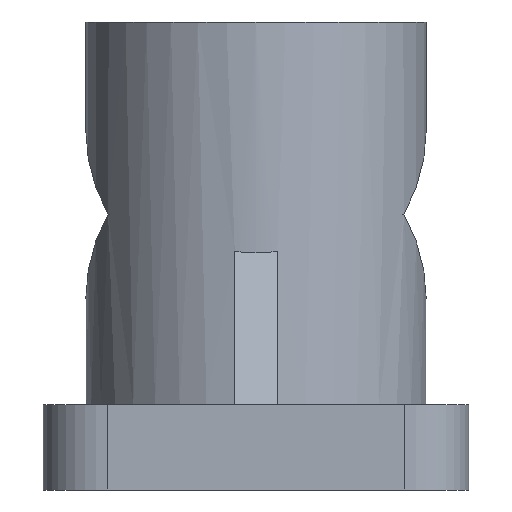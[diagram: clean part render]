
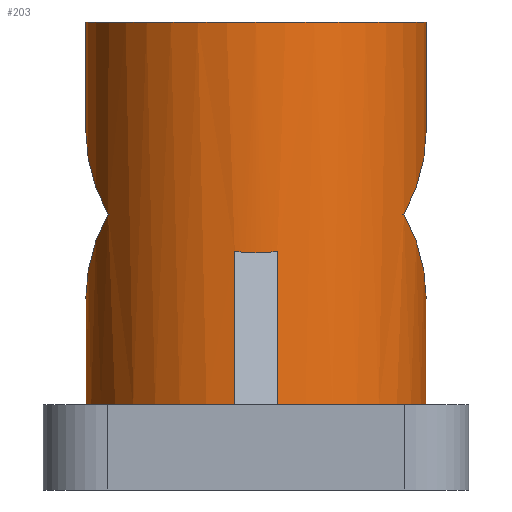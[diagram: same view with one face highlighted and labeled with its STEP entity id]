
A CAD part, left-side view. The second image highlights one B-rep face of the part: STEP entity #203.
In plain terms, the highlighted cylindrical face has radius 40 mm (diameter 80 mm), a full revolution.
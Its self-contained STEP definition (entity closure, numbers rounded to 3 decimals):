
#27=CARTESIAN_POINT('',(0.,0.,90.));
#28=DIRECTION('',(0.,0.,-1.));
#29=DIRECTION('',(-1.,0.,0.));
#30=AXIS2_PLACEMENT_3D('',#27,#28,#29);
#31=CYLINDRICAL_SURFACE('',#30,40.);
#32=CARTESIAN_POINT('',(-40.,0.,35.753));
#33=VERTEX_POINT('',#32);
#34=CARTESIAN_POINT('',(-40.,0.,90.));
#35=VERTEX_POINT('',#34);
#36=CARTESIAN_POINT('',(-40.,0.,35.753));
#37=DIRECTION('',(-0.,-0.,1.));
#38=VECTOR('',#37,54.247);
#39=LINE('',#36,#38);
#40=EDGE_CURVE('',#33,#35,#39,.T.);
#41=ORIENTED_EDGE('',*,*,#40,.T.);
#42=CARTESIAN_POINT('',(0.,0.,90.));
#43=DIRECTION('',(0.,0.,1.));
#44=DIRECTION('',(-1.,0.,0.));
#45=AXIS2_PLACEMENT_3D('',#42,#43,#44);
#46=CIRCLE('',#45,40.);
#47=EDGE_CURVE('',#35,#35,#46,.T.);
#48=ORIENTED_EDGE('',*,*,#47,.F.);
#49=ORIENTED_EDGE('',*,*,#40,.F.);
#50=CARTESIAN_POINT('',(-39.686,-5.,36.126));
#51=VERTEX_POINT('',#50);
#52=CARTESIAN_POINT('',(0.,0.,83.423));
#53=DIRECTION('',(-0.766,-0.,0.643));
#54=DIRECTION('',(-0.643,0.,-0.766));
#55=AXIS2_PLACEMENT_3D('',#52,#53,#54);
#56=ELLIPSE('',#55,62.229,40.);
#57=EDGE_CURVE('',#33,#51,#56,.T.);
#58=ORIENTED_EDGE('',*,*,#57,.T.);
#59=CARTESIAN_POINT('',(-39.686,-5.,0.));
#60=VERTEX_POINT('',#59);
#61=CARTESIAN_POINT('',(-39.686,-5.,36.126));
#62=DIRECTION('',(0.,0.,-1.));
#63=VECTOR('',#62,36.126);
#64=LINE('',#61,#63);
#65=EDGE_CURVE('',#51,#60,#64,.T.);
#66=ORIENTED_EDGE('',*,*,#65,.T.);
#67=CARTESIAN_POINT('',(39.686,-5.,0.));
#68=VERTEX_POINT('',#67);
#69=CARTESIAN_POINT('',(0.,0.,0.));
#70=DIRECTION('',(0.,0.,1.));
#71=DIRECTION('',(-1.,0.,0.));
#72=AXIS2_PLACEMENT_3D('',#69,#70,#71);
#73=CIRCLE('',#72,40.);
#74=EDGE_CURVE('',#60,#68,#73,.T.);
#75=ORIENTED_EDGE('',*,*,#74,.T.);
#76=CARTESIAN_POINT('',(39.686,-5.,36.126));
#77=VERTEX_POINT('',#76);
#78=CARTESIAN_POINT('',(39.686,-5.,0.));
#79=DIRECTION('',(-0.,-0.,1.));
#80=VECTOR('',#79,36.126);
#81=LINE('',#78,#80);
#82=EDGE_CURVE('',#68,#77,#81,.T.);
#83=ORIENTED_EDGE('',*,*,#82,.T.);
#84=CARTESIAN_POINT('',(39.686,5.,36.126));
#85=VERTEX_POINT('',#84);
#86=CARTESIAN_POINT('',(0.,0.,83.423));
#87=DIRECTION('',(-0.766,-0.,-0.643));
#88=DIRECTION('',(0.643,0.,-0.766));
#89=AXIS2_PLACEMENT_3D('',#86,#87,#88);
#90=ELLIPSE('',#89,62.229,40.);
#91=EDGE_CURVE('',#85,#77,#90,.T.);
#92=ORIENTED_EDGE('',*,*,#91,.F.);
#93=CARTESIAN_POINT('',(39.686,5.,0.));
#94=VERTEX_POINT('',#93);
#95=CARTESIAN_POINT('',(39.686,5.,0.));
#96=DIRECTION('',(-0.,-0.,1.));
#97=VECTOR('',#96,36.126);
#98=LINE('',#95,#97);
#99=EDGE_CURVE('',#94,#85,#98,.T.);
#100=ORIENTED_EDGE('',*,*,#99,.F.);
#101=CARTESIAN_POINT('',(-39.686,5.,0.));
#102=VERTEX_POINT('',#101);
#103=CARTESIAN_POINT('',(0.,0.,0.));
#104=DIRECTION('',(0.,0.,1.));
#105=DIRECTION('',(-1.,0.,0.));
#106=AXIS2_PLACEMENT_3D('',#103,#104,#105);
#107=CIRCLE('',#106,40.);
#108=EDGE_CURVE('',#94,#102,#107,.T.);
#109=ORIENTED_EDGE('',*,*,#108,.T.);
#110=CARTESIAN_POINT('',(-39.686,5.,36.126));
#111=VERTEX_POINT('',#110);
#112=CARTESIAN_POINT('',(-39.686,5.,36.126));
#113=DIRECTION('',(0.,0.,-1.));
#114=VECTOR('',#113,36.126);
#115=LINE('',#112,#114);
#116=EDGE_CURVE('',#111,#102,#115,.T.);
#117=ORIENTED_EDGE('',*,*,#116,.F.);
#118=CARTESIAN_POINT('',(0.,0.,83.423));
#119=DIRECTION('',(-0.766,-0.,0.643));
#120=DIRECTION('',(-0.643,0.,-0.766));
#121=AXIS2_PLACEMENT_3D('',#118,#119,#120);
#122=ELLIPSE('',#121,62.229,40.);
#123=EDGE_CURVE('',#111,#33,#122,.T.);
#124=ORIENTED_EDGE('',*,*,#123,.T.);
#125=EDGE_LOOP('',(#41,#48,#49,#58,#66,#75,#83,#92,#100,#109,#117,#124));
#126=FACE_BOUND('',#125,.T.);
#127=CARTESIAN_POINT('',(19.799,34.756,44.797));
#128=VERTEX_POINT('',#127);
#129=CARTESIAN_POINT('',(0.,40.,24.998));
#130=VERTEX_POINT('',#129);
#131=CARTESIAN_POINT('',(0.,0.,24.998));
#132=DIRECTION('',(-0.707,0.,0.707));
#133=DIRECTION('',(-0.707,0.,-0.707));
#134=AXIS2_PLACEMENT_3D('',#131,#132,#133);
#135=ELLIPSE('',#134,56.569,40.);
#136=EDGE_CURVE('',#128,#130,#135,.T.);
#137=ORIENTED_EDGE('',*,*,#136,.F.);
#138=CARTESIAN_POINT('',(-0.,40.,64.596));
#139=VERTEX_POINT('',#138);
#140=CARTESIAN_POINT('',(0.,0.,64.596));
#141=DIRECTION('',(-0.707,0.,-0.707));
#142=DIRECTION('',(0.707,0.,-0.707));
#143=AXIS2_PLACEMENT_3D('',#140,#141,#142);
#144=ELLIPSE('',#143,56.569,40.);
#145=EDGE_CURVE('',#139,#128,#144,.T.);
#146=ORIENTED_EDGE('',*,*,#145,.F.);
#147=CARTESIAN_POINT('',(-19.799,34.756,44.797));
#148=VERTEX_POINT('',#147);
#149=CARTESIAN_POINT('',(0.,0.,64.596));
#150=DIRECTION('',(0.707,0.,-0.707));
#151=DIRECTION('',(-0.707,0.,-0.707));
#152=AXIS2_PLACEMENT_3D('',#149,#150,#151);
#153=ELLIPSE('',#152,56.569,40.);
#154=EDGE_CURVE('',#148,#139,#153,.T.);
#155=ORIENTED_EDGE('',*,*,#154,.F.);
#156=CARTESIAN_POINT('',(0.,0.,24.998));
#157=DIRECTION('',(0.707,0.,0.707));
#158=DIRECTION('',(0.707,0.,-0.707));
#159=AXIS2_PLACEMENT_3D('',#156,#157,#158);
#160=ELLIPSE('',#159,56.569,40.);
#161=EDGE_CURVE('',#130,#148,#160,.T.);
#162=ORIENTED_EDGE('',*,*,#161,.F.);
#163=EDGE_LOOP('',(#137,#146,#155,#162));
#164=FACE_BOUND('',#163,.T.);
#165=CARTESIAN_POINT('',(-0.,-40.,64.596));
#166=VERTEX_POINT('',#165);
#167=CARTESIAN_POINT('',(-19.799,-34.756,44.797));
#168=VERTEX_POINT('',#167);
#169=CARTESIAN_POINT('',(0.,0.,64.596));
#170=DIRECTION('',(0.707,0.,-0.707));
#171=DIRECTION('',(-0.707,0.,-0.707));
#172=AXIS2_PLACEMENT_3D('',#169,#170,#171);
#173=ELLIPSE('',#172,56.569,40.);
#174=EDGE_CURVE('',#166,#168,#173,.T.);
#175=ORIENTED_EDGE('',*,*,#174,.F.);
#176=CARTESIAN_POINT('',(19.799,-34.756,44.797));
#177=VERTEX_POINT('',#176);
#178=CARTESIAN_POINT('',(0.,0.,64.596));
#179=DIRECTION('',(-0.707,0.,-0.707));
#180=DIRECTION('',(0.707,0.,-0.707));
#181=AXIS2_PLACEMENT_3D('',#178,#179,#180);
#182=ELLIPSE('',#181,56.569,40.);
#183=EDGE_CURVE('',#177,#166,#182,.T.);
#184=ORIENTED_EDGE('',*,*,#183,.F.);
#185=CARTESIAN_POINT('',(0.,-40.,24.998));
#186=VERTEX_POINT('',#185);
#187=CARTESIAN_POINT('',(0.,0.,24.998));
#188=DIRECTION('',(-0.707,0.,0.707));
#189=DIRECTION('',(-0.707,0.,-0.707));
#190=AXIS2_PLACEMENT_3D('',#187,#188,#189);
#191=ELLIPSE('',#190,56.569,40.);
#192=EDGE_CURVE('',#186,#177,#191,.T.);
#193=ORIENTED_EDGE('',*,*,#192,.F.);
#194=CARTESIAN_POINT('',(0.,0.,24.998));
#195=DIRECTION('',(0.707,0.,0.707));
#196=DIRECTION('',(0.707,0.,-0.707));
#197=AXIS2_PLACEMENT_3D('',#194,#195,#196);
#198=ELLIPSE('',#197,56.569,40.);
#199=EDGE_CURVE('',#168,#186,#198,.T.);
#200=ORIENTED_EDGE('',*,*,#199,.F.);
#201=EDGE_LOOP('',(#175,#184,#193,#200));
#202=FACE_BOUND('',#201,.T.);
#203=ADVANCED_FACE('',(#126,#164,#202),#31,.T.);
